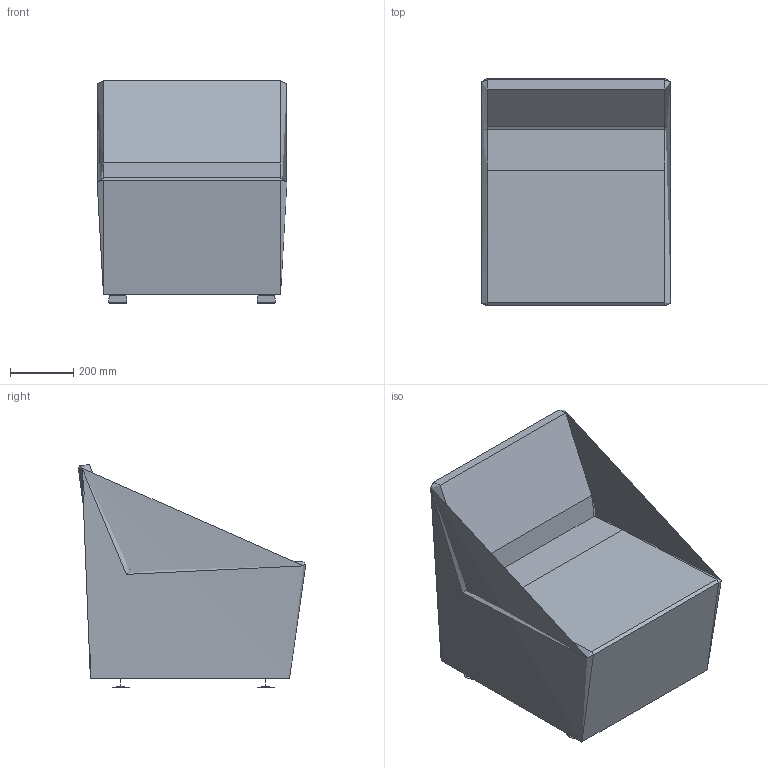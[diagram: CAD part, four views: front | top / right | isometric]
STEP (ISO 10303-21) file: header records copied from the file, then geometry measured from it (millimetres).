
FILE_DESCRIPTION(/* description */ (''),/* implementation_level */ '2;1');
FILE_NAME(/* name */ 'CLUBK~1',/* time_stamp */ '2017-03-10T19:44:32+01:00',/* author */ (''),/* organization */ (''),/* preprocessor_version */ 'ST-DEVELOPER v15',/* originating_system */ '',/* authorisation */ '');
FILE_SCHEMA (('CONFIG_CONTROL_DESIGN'));
Length unit declared in the file: millimetre
Products named in the file (1): Document
Bounding box: 600 x 719.65 x 705.08 mm (x, y, z)
Surface area: 2170021.3 mm2 (no closed solid volume)
Topology: 0 solids, 6 shells, 40 faces, 103 edges, 65 vertices
Faces by surface type: bspline 36, plane 4
Entity records: 5941 total; most frequent: CARTESIAN_POINT 5280, ORIENTED_EDGE 168, EDGE_CURVE 98, VERTEX_POINT 64, B_SPLINE_CURVE_WITH_KNOTS 59, ADVANCED_FACE 40, FACE_OUTER_BOUND 40, EDGE_LOOP 40
